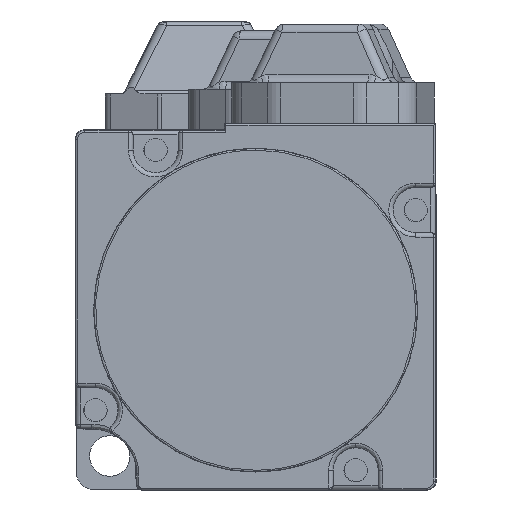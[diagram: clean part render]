
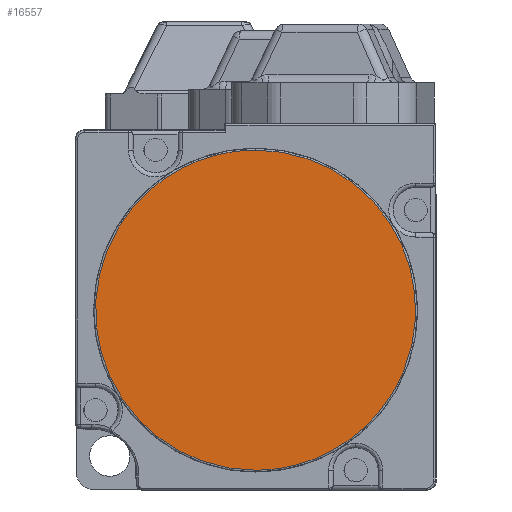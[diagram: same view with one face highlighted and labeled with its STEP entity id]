
A CAD part, front view. The second image highlights one B-rep face of the part: STEP entity #16557.
In plain terms, the highlighted planar face has unit normal (0, -1, 0).
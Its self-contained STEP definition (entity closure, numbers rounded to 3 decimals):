
#164 = ORIENTED_EDGE ( 'NONE', *, *, #12365, .F. ) ;
#1498 = CARTESIAN_POINT ( 'NONE',  ( 0., 0., 17.8 ) ) ;
#2711 = CARTESIAN_POINT ( 'NONE',  ( 35.6, 0., 17.8 ) ) ;
#3153 = CARTESIAN_POINT ( 'NONE',  ( -35.6, 0., -17.8 ) ) ;
#4556 = CARTESIAN_POINT ( 'NONE',  ( 0., 0., -17.8 ) ) ;
#5974 = CARTESIAN_POINT ( 'NONE',  ( 0., 0., 17.8 ) ) ;
#6248 = EDGE_CURVE ( 'NONE', #8895, #6966, #17131, .T. ) ;
#6366 = ORIENTED_EDGE ( 'NONE', *, *, #6248, .F. ) ;
#6966 = VERTEX_POINT ( 'NONE', #16019 ) ;
#7796 = CARTESIAN_POINT ( 'NONE',  ( -35.6, 0., 17.8 ) ) ;
#8665 = PLANE ( 'NONE',  #9352 ) ;
#8884 = CARTESIAN_POINT ( 'NONE',  ( 35.6, 0., -17.8 ) ) ;
#8895 = VERTEX_POINT ( 'NONE', #16771 ) ;
#9285 = CARTESIAN_POINT ( 'NONE',  ( 0., 0., -17.8 ) ) ;
#9352 = AXIS2_PLACEMENT_3D ( 'NONE', #12091, #11803, #13507 ) ;
#11803 = DIRECTION ( 'NONE',  ( 0., 1., 0. ) ) ;
#12091 = CARTESIAN_POINT ( 'NONE',  ( 0., 0., 0. ) ) ;
#12365 = EDGE_CURVE ( 'NONE', #6966, #8895, #13927, .T. ) ;
#13507 = DIRECTION ( 'NONE',  ( 1., 0., 0. ) ) ;
#13654 = EDGE_LOOP ( 'NONE', ( #6366, #164 ) ) ;
#13927 =( BOUNDED_CURVE ( )  B_SPLINE_CURVE ( 3, ( #4556, #3153, #7796, #5974 ),
 .UNSPECIFIED., .F., .F. ) 
 B_SPLINE_CURVE_WITH_KNOTS ( ( 4, 4 ),
 ( 0., 1. ),
 .UNSPECIFIED. ) 
 CURVE ( )  GEOMETRIC_REPRESENTATION_ITEM ( )  RATIONAL_B_SPLINE_CURVE ( ( 1., 0.333, 0.333, 1. ) ) 
 REPRESENTATION_ITEM ( '' )  );
#14923 = FACE_OUTER_BOUND ( 'NONE', #13654, .T. ) ;
#16019 = CARTESIAN_POINT ( 'NONE',  ( 0., 0., -17.8 ) ) ;
#16557 = ADVANCED_FACE ( 'NONE', ( #14923 ), #8665, .F. ) ;
#16771 = CARTESIAN_POINT ( 'NONE',  ( 0., 0., 17.8 ) ) ;
#17131 =( BOUNDED_CURVE ( )  B_SPLINE_CURVE ( 3, ( #1498, #2711, #8884, #9285 ),
 .UNSPECIFIED., .F., .F. ) 
 B_SPLINE_CURVE_WITH_KNOTS ( ( 4, 4 ),
 ( 0., 1. ),
 .UNSPECIFIED. ) 
 CURVE ( )  GEOMETRIC_REPRESENTATION_ITEM ( )  RATIONAL_B_SPLINE_CURVE ( ( 1., 0.333, 0.333, 1. ) ) 
 REPRESENTATION_ITEM ( '' )  );
